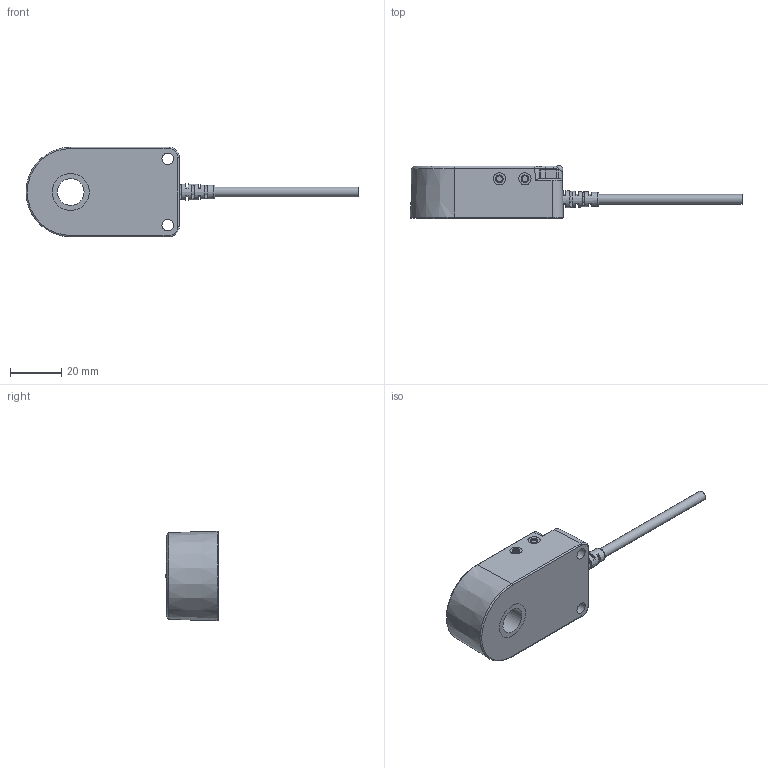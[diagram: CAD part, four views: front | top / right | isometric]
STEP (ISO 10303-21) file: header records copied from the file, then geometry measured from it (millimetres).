
FILE_DESCRIPTION(/* description */ (''),/* implementation_level */ '2;1');
FILE_NAME(/* name */ 'F:\HUAYIFENG\02)HUAYIFENG_3D_MODE\新环型\newhuanxing\3D_PC\PC10.stp',/* time_stamp */ '2019-06-19T19:42:10+08:00',/* author */ ('fengjiarun'),/* organization */ (''),/* preprocessor_version */ 'ST-DEVELOPER v16.5',/* originating_system */ 'Autodesk Inventor 2017',/* authorisation */ '');
FILE_SCHEMA (('AUTOMOTIVE_DESIGN { 1 0 10303 214 3 1 1 }'));
Length unit declared in the file: millimetre
Products named in the file (1): 零件10
Bounding box: 130 x 20.73 x 35 mm (x, y, z)
Volume: 37023.3 mm3; surface area: 9281.3 mm2
Topology: 1 solids, 1 shells, 229 faces, 561 edges, 357 vertices
Faces by surface type: plane 100, cylinder 66, bspline 38, torus 19, cone 4, sphere 2
Full cylindrical faces by diameter (mm): 3 x3, 3.05 x1, 3.8 x1, 4.5 x2, 4.8 x2, 6 x2, 10.5 x2
Entity records: 8965 total; most frequent: CARTESIAN_POINT 3713, ORIENTED_EDGE 1032, DIRECTION 986, EDGE_CURVE 516, AXIS2_PLACEMENT_3D 386, VERTEX_POINT 335, EDGE_LOOP 277, STYLED_ITEM 228
